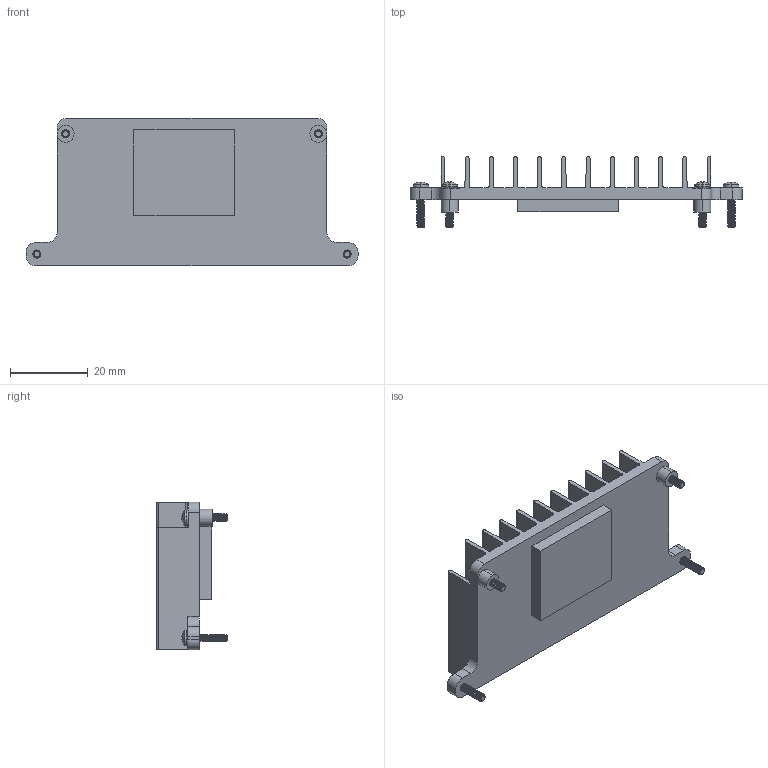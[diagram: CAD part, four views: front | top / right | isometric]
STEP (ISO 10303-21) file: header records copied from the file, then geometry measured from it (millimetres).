
FILE_DESCRIPTION (( 'STEP AP214' ), '1' );
FILE_NAME ('TDX002 - 07-Oct-2024.STEP', '2024-10-07T09:36:00', ( '' ), ( '' ), 'SwSTEP 2.0', 'SolidWorks 2022', '' );
FILE_SCHEMA (( 'AUTOMOTIVE_DESIGN' ));
Length unit declared in the file: millimetre
Products named in the file (4): 92000A017_92000A017; TDX001; TDX002 - 07-Oct-2024; TM040
Assembly tree (6 placements, depth 2):
  TDX002 - 07-Oct-2024
    TDX001
    TM040
    92000A017_92000A017  x4
Bounding box: 85.6 x 18.15 x 38 mm (x, y, z)
Volume: 13961.9 mm3; surface area: 15220.8 mm2
Topology: 6 solids, 6 shells, 616 faces, 1730 edges, 1130 vertices
Faces by surface type: cylinder 312, plane 144, bspline 68, cone 60, torus 24, sphere 8
Entity records: 11992 total; most frequent: CARTESIAN_POINT 5437, ORIENTED_EDGE 1468, DIRECTION 1251, EDGE_CURVE 734, VERTEX_POINT 482, AXIS2_PLACEMENT_3D 444, VECTOR 363, LINE 363
